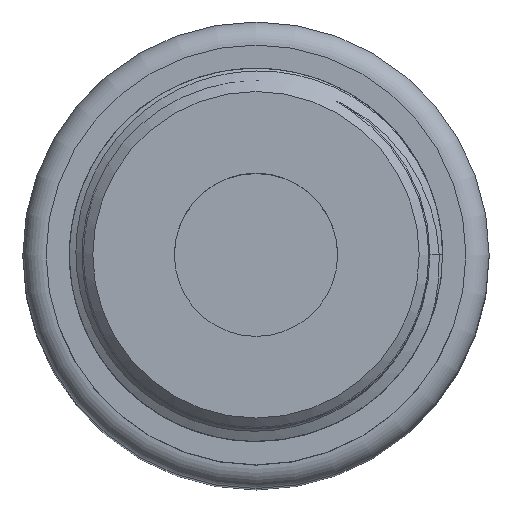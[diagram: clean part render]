
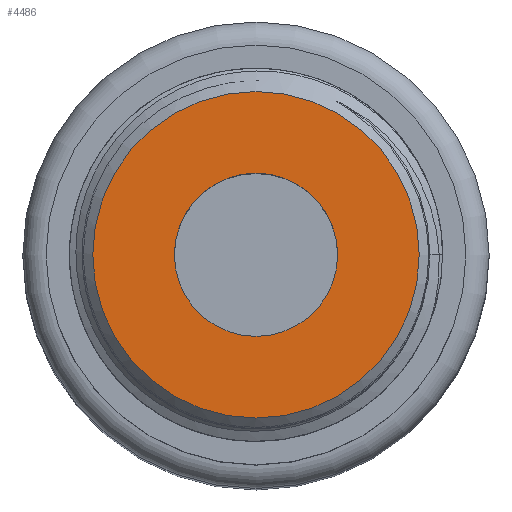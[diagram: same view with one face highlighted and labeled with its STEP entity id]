
A CAD part, top view. The second image highlights one B-rep face of the part: STEP entity #4486.
In plain terms, the highlighted planar face has unit normal (0, 0, 1).
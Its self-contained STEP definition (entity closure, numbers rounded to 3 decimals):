
#3013 = VERTEX_POINT('',#3014);
#3014 = CARTESIAN_POINT('',(3.5,0.,0.));
#3022 = EDGE_CURVE('',#3013,#3013,#3023,.T.);
#3023 = CIRCLE('',#3024,3.5);
#3024 = AXIS2_PLACEMENT_3D('',#3025,#3026,#3027);
#3025 = CARTESIAN_POINT('',(0.,0.,0.));
#3026 = DIRECTION('',(0.,0.,1.));
#3027 = DIRECTION('',(1.,0.,0.));
#4486 = ADVANCED_FACE('',(#4487,#4490),#4501,.T.);
#4487 = FACE_BOUND('',#4488,.F.);
#4488 = EDGE_LOOP('',(#4489));
#4489 = ORIENTED_EDGE('',*,*,#3022,.F.);
#4490 = FACE_BOUND('',#4491,.F.);
#4491 = EDGE_LOOP('',(#4492));
#4492 = ORIENTED_EDGE('',*,*,#4493,.T.);
#4493 = EDGE_CURVE('',#4494,#4494,#4496,.T.);
#4494 = VERTEX_POINT('',#4495);
#4495 = CARTESIAN_POINT('',(1.75,0.,0.));
#4496 = CIRCLE('',#4497,1.75);
#4497 = AXIS2_PLACEMENT_3D('',#4498,#4499,#4500);
#4498 = CARTESIAN_POINT('',(0.,0.,0.));
#4499 = DIRECTION('',(0.,0.,1.));
#4500 = DIRECTION('',(1.,0.,0.));
#4501 = PLANE('',#4502);
#4502 = AXIS2_PLACEMENT_3D('',#4503,#4504,#4505);
#4503 = CARTESIAN_POINT('',(0.,0.,0.));
#4504 = DIRECTION('',(0.,0.,1.));
#4505 = DIRECTION('',(1.,0.,0.));
